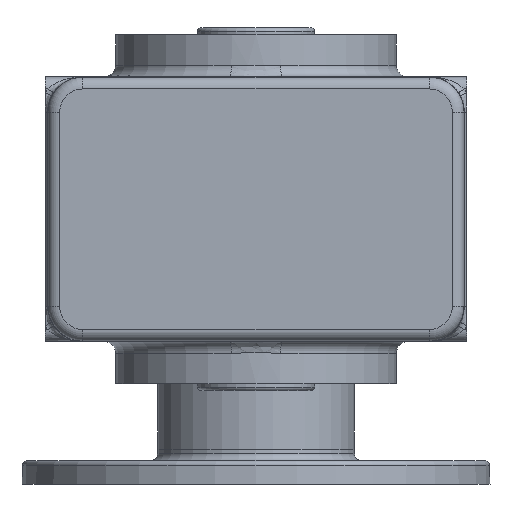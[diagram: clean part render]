
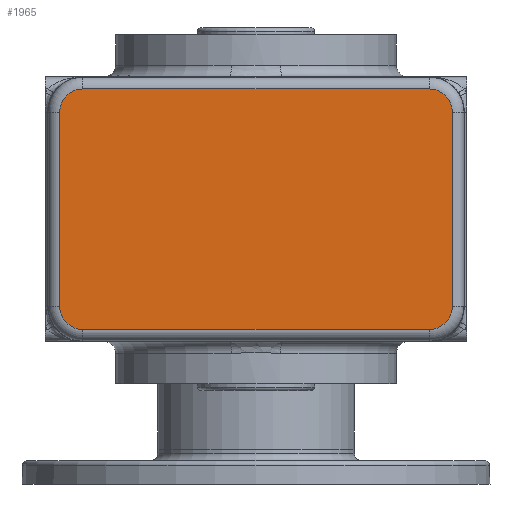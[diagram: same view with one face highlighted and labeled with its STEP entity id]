
A CAD part, front view. The second image highlights one B-rep face of the part: STEP entity #1965.
In plain terms, the highlighted planar face has unit normal (0, -1, 0).
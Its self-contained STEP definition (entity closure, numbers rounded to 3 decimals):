
#1402 = VERTEX_POINT ( 'NONE', #61200 ) ;
#1965 = ADVANCED_FACE ( 'NONE', ( #65749 ), #65961, .T. ) ;
#1967 = EDGE_LOOP ( 'NONE', ( #2040, #2034, #2019, #2084, #2085, #2008, #3160, #2842 ) ) ;
#1974 = VERTEX_POINT ( 'NONE', #66040 ) ;
#2007 = VERTEX_POINT ( 'NONE', #66124 ) ;
#2008 = ORIENTED_EDGE ( 'NONE', *, *, #3156, .T. ) ;
#2009 = VERTEX_POINT ( 'NONE', #66119 ) ;
#2010 = EDGE_CURVE ( 'NONE', #1402, #2009, #66111, .T. ) ;
#2019 = ORIENTED_EDGE ( 'NONE', *, *, #2010, .T. ) ;
#2034 = ORIENTED_EDGE ( 'NONE', *, *, #2035, .T. ) ;
#2035 = EDGE_CURVE ( 'NONE', #2039, #1402, #66335, .T. ) ;
#2039 = VERTEX_POINT ( 'NONE', #66326 ) ;
#2040 = ORIENTED_EDGE ( 'NONE', *, *, #2041, .T. ) ;
#2041 = EDGE_CURVE ( 'NONE', #1974, #2039, #66318, .T. ) ;
#2081 = EDGE_CURVE ( 'NONE', #2007, #2082, #66741, .T. ) ;
#2082 = VERTEX_POINT ( 'NONE', #66731 ) ;
#2083 = EDGE_CURVE ( 'NONE', #2009, #2007, #66721, .T. ) ;
#2084 = ORIENTED_EDGE ( 'NONE', *, *, #2083, .T. ) ;
#2085 = ORIENTED_EDGE ( 'NONE', *, *, #2081, .T. ) ;
#2842 = ORIENTED_EDGE ( 'NONE', *, *, #2843, .T. ) ;
#2843 = EDGE_CURVE ( 'NONE', #3162, #1974, #64270, .T. ) ;
#3156 = EDGE_CURVE ( 'NONE', #2082, #3157, #66199, .T. ) ;
#3157 = VERTEX_POINT ( 'NONE', #66403 ) ;
#3160 = ORIENTED_EDGE ( 'NONE', *, *, #3161, .T. ) ;
#3161 = EDGE_CURVE ( 'NONE', #3157, #3162, #66395, .T. ) ;
#3162 = VERTEX_POINT ( 'NONE', #66384 ) ;
#61200 = CARTESIAN_POINT ( 'NONE',  ( 74., -80., 107.904 ) ) ;
#64265 = DIRECTION ( 'NONE',  ( 0., 0., -1. ) ) ;
#64266 = DIRECTION ( 'NONE',  ( 0., -1., 0. ) ) ;
#64267 = CARTESIAN_POINT ( 'NONE',  ( 74., -80., 15. ) ) ;
#64269 = AXIS2_PLACEMENT_3D ( 'NONE', #64267, #64266, #64265 ) ;
#64270 = CIRCLE ( 'NONE', #64269, 9.904 ) ;
#65749 = FACE_OUTER_BOUND ( 'NONE', #1967, .T. ) ;
#65951 = DIRECTION ( 'NONE',  ( 0., 0., -1. ) ) ;
#65954 = DIRECTION ( 'NONE',  ( 0., -1., 0. ) ) ;
#65956 = CARTESIAN_POINT ( 'NONE',  ( -74., -80., 15. ) ) ;
#65958 = AXIS2_PLACEMENT_3D ( 'NONE', #65956, #65954, #65951 ) ;
#65961 = PLANE ( 'NONE',  #65958 ) ;
#66040 = CARTESIAN_POINT ( 'NONE',  ( 83.904, -80., 15. ) ) ;
#66105 = DIRECTION ( 'NONE',  ( -1., 0., 0. ) ) ;
#66107 = VECTOR ( 'NONE', #66105, 1000. ) ;
#66110 = CARTESIAN_POINT ( 'NONE',  ( -74., -80., 107.904 ) ) ;
#66111 = LINE ( 'NONE', #66110, #66107 ) ;
#66119 = CARTESIAN_POINT ( 'NONE',  ( -74., -80., 107.904 ) ) ;
#66124 = CARTESIAN_POINT ( 'NONE',  ( -83.904, -80., 98. ) ) ;
#66191 = DIRECTION ( 'NONE',  ( 0., 0., -1. ) ) ;
#66194 = DIRECTION ( 'NONE',  ( 0., -1., 0. ) ) ;
#66196 = CARTESIAN_POINT ( 'NONE',  ( -74., -80., 15. ) ) ;
#66197 = AXIS2_PLACEMENT_3D ( 'NONE', #66196, #66194, #66191 ) ;
#66199 = CIRCLE ( 'NONE', #66197, 9.904 ) ;
#66311 = DIRECTION ( 'NONE',  ( 0., 0., 1. ) ) ;
#66313 = VECTOR ( 'NONE', #66311, 1000. ) ;
#66316 = CARTESIAN_POINT ( 'NONE',  ( 83.904, -80., 98. ) ) ;
#66318 = LINE ( 'NONE', #66316, #66313 ) ;
#66326 = CARTESIAN_POINT ( 'NONE',  ( 83.904, -80., 98. ) ) ;
#66328 = DIRECTION ( 'NONE',  ( 0., 0., -1. ) ) ;
#66330 = DIRECTION ( 'NONE',  ( 0., -1., 0. ) ) ;
#66332 = CARTESIAN_POINT ( 'NONE',  ( 74., -80., 98. ) ) ;
#66333 = AXIS2_PLACEMENT_3D ( 'NONE', #66332, #66330, #66328 ) ;
#66335 = CIRCLE ( 'NONE', #66333, 9.904 ) ;
#66384 = CARTESIAN_POINT ( 'NONE',  ( 74., -80., 5.096 ) ) ;
#66388 = DIRECTION ( 'NONE',  ( 1., 0., 0. ) ) ;
#66391 = VECTOR ( 'NONE', #66388, 1000. ) ;
#66394 = CARTESIAN_POINT ( 'NONE',  ( 74., -80., 5.096 ) ) ;
#66395 = LINE ( 'NONE', #66394, #66391 ) ;
#66403 = CARTESIAN_POINT ( 'NONE',  ( -74., -80., 5.096 ) ) ;
#66711 = DIRECTION ( 'NONE',  ( 0., 0., -1. ) ) ;
#66714 = DIRECTION ( 'NONE',  ( 0., -1., 0. ) ) ;
#66716 = CARTESIAN_POINT ( 'NONE',  ( -74., -80., 98. ) ) ;
#66719 = AXIS2_PLACEMENT_3D ( 'NONE', #66716, #66714, #66711 ) ;
#66721 = CIRCLE ( 'NONE', #66719, 9.904 ) ;
#66731 = CARTESIAN_POINT ( 'NONE',  ( -83.904, -80., 15. ) ) ;
#66734 = DIRECTION ( 'NONE',  ( 0., 0., -1. ) ) ;
#66737 = VECTOR ( 'NONE', #66734, 1000. ) ;
#66738 = CARTESIAN_POINT ( 'NONE',  ( -83.904, -80., 15. ) ) ;
#66741 = LINE ( 'NONE', #66738, #66737 ) ;
